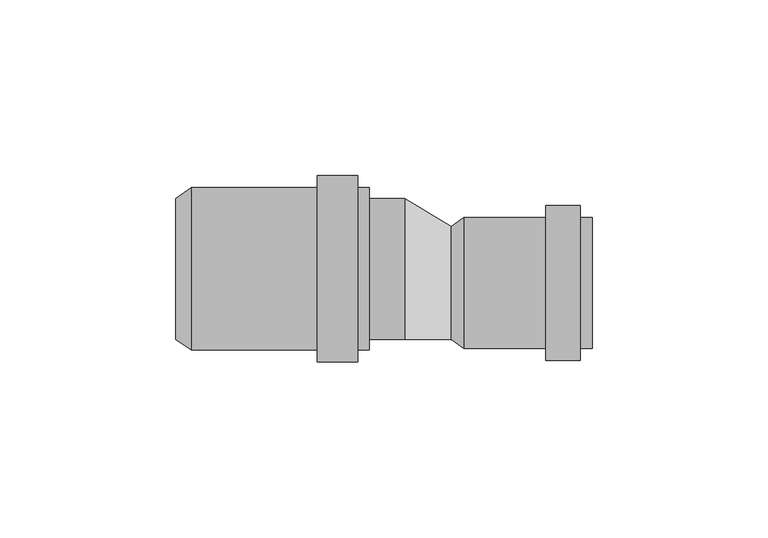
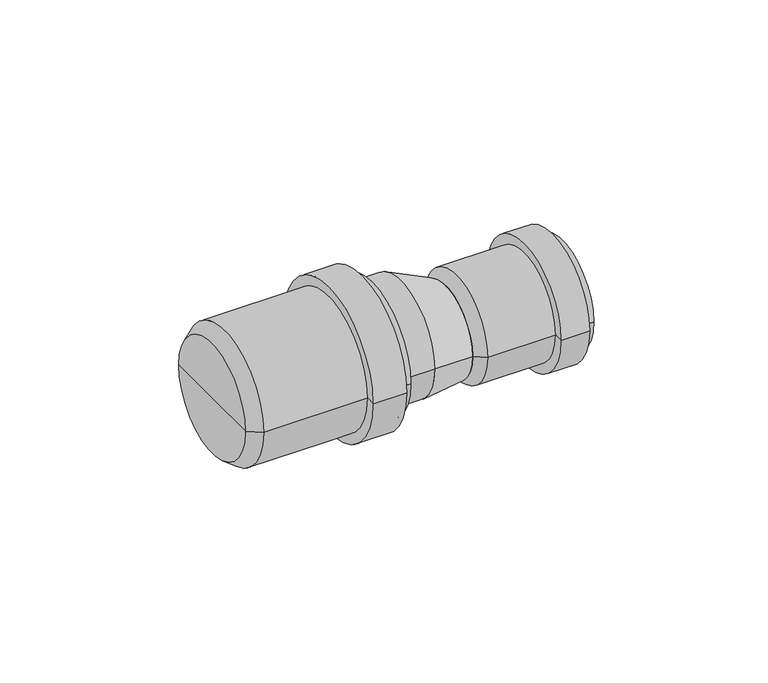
"""IFC4 building model written with IfcOpenShell, lengths in millimetres: pipe fitting geometry, pf_HTR_red-nes-dlouha : pf_HTR_red-nes-dlouha."""

from ifc_helpers import new_model, si_unit, point, frame, origin, origin_2d, place, context, project, spatial, polyline, circle_curve, trimmed, segment, composite_curve, outline, extrude, source, transform, mapped, element, save
from ifc_brep_helpers import plane_surface, cylinder_surface, revolved_surface, spline_surface, advanced_brep


def pipe_fitting_a80d6788(model_context):
    return source(origin(), model_context, "Body", "SolidModel", [
        advanced_brep(
        [(-65.0, -20.0, 0.0), (-65.0, 20.0, 0.0), (-60.6, 23.1, 0.0), (-60.6, -23.1, 0.0), (-65.0, 0.0, 0.0), (-10.0, -23.1, 0.0), (-10.0, 23.1, 0.0), (-10.0, 0.0, 0.0), (-13.4, -23.1, 0.0), (-13.4, 23.1, 0.0), (-13.4, -26.5, 0.0), (-13.4, 26.5, 0.0), (-24.8, -26.5, 0.0), (-24.8, 26.5, 0.0), (-24.8, -23.1, 0.0), (-24.8, 23.1, 0.0)],
        [
            (0, 1, circle_curve(frame((-65.0, 0.0, 0.0), z_axis=(1.0, 0.0, 0.0), x_axis=(0.0, 1.0, 0.0)), 20.0)),
            (1, 2),
            (2, 3, circle_curve(frame((-60.6, 0.0, 0.0), z_axis=(-1.0, 0.0, 0.0), x_axis=(0.0, 1.0, 0.0)), 23.1)),
            (3, 0),
            (1, 0, circle_curve(frame((-65.0, 0.0, 0.0), z_axis=(1.0, 0.0, 0.0), x_axis=(0.0, 1.0, 0.0)), 20.0)),
            (3, 2, circle_curve(frame((-60.6, 0.0, 0.0), z_axis=(-1.0, 0.0, 0.0), x_axis=(0.0, 1.0, 0.0)), 23.1)),
            (4, 1),
            (0, 4),
            (5, 6, circle_curve(frame((-10.0, 0.0, 0.0), z_axis=(1.0, 0.0, 0.0), x_axis=(0.0, 1.0, 0.0)), 23.1)),
            (6, 7),
            (7, 5),
            (6, 5, circle_curve(frame((-10.0, 0.0, 0.0), z_axis=(1.0, 0.0, 0.0), x_axis=(0.0, 1.0, 0.0)), 23.1)),
            (8, 9, circle_curve(frame((-13.4, 0.0, 0.0), z_axis=(1.0, 0.0, 0.0), x_axis=(0.0, 1.0, 0.0)), 23.1)),
            (9, 6),
            (5, 8),
            (9, 8, circle_curve(frame((-13.4, 0.0, 0.0), z_axis=(1.0, 0.0, 0.0), x_axis=(0.0, 1.0, 0.0)), 23.1)),
            (10, 11, circle_curve(frame((-13.4, 0.0, 0.0), z_axis=(1.0, 0.0, 0.0), x_axis=(0.0, 1.0, 0.0)), 26.5)),
            (11, 9),
            (8, 10),
            (11, 10, circle_curve(frame((-13.4, 0.0, 0.0), z_axis=(1.0, 0.0, 0.0), x_axis=(0.0, 1.0, 0.0)), 26.5)),
            (12, 13, circle_curve(frame((-24.8, 0.0, 0.0), z_axis=(1.0, 0.0, 0.0), x_axis=(0.0, 1.0, 0.0)), 26.5)),
            (13, 11),
            (10, 12),
            (13, 12, circle_curve(frame((-24.8, 0.0, 0.0), z_axis=(1.0, 0.0, 0.0), x_axis=(0.0, 1.0, 0.0)), 26.5)),
            (14, 15, circle_curve(frame((-24.8, 0.0, 0.0), z_axis=(1.0, 0.0, 0.0), x_axis=(0.0, 1.0, 0.0)), 23.1)),
            (15, 13),
            (12, 14),
            (15, 14, circle_curve(frame((-24.8, 0.0, 0.0), z_axis=(1.0, 0.0, 0.0), x_axis=(0.0, 1.0, 0.0)), 23.1)),
            (2, 15),
            (14, 3),
        ],
        [
            revolved_surface(polyline([(-60.6, 23.1, 0.0), (-65.0, 20.0, 0.0)]), (-65.0, 0.0, 0.0), (-1.0, 0.0, 0.0)),
            plane_surface(frame((-65.0, 0.0, 0.0), z_axis=(-1.0, 0.0, 0.0), x_axis=(0.0, 1.0, 0.0))),
            plane_surface(frame((-10.0, 0.0, 0.0), z_axis=(1.0, 0.0, 0.0), x_axis=(0.0, 1.0, 0.0))),
            cylinder_surface(frame((-65.0, 0.0, 0.0), z_axis=(-1.0, 0.0, 0.0), x_axis=(0.0, 1.0, 0.0)), 23.1),
            plane_surface(frame((-13.4, 0.0, 0.0), z_axis=(1.0, 0.0, 0.0), x_axis=(0.0, 1.0, 0.0))),
            cylinder_surface(frame((-65.0, 0.0, 0.0), z_axis=(-1.0, 0.0, 0.0), x_axis=(0.0, 1.0, 0.0)), 26.5),
            plane_surface(frame((-24.8, 0.0, 0.0), z_axis=(-1.0, 0.0, 0.0), x_axis=(0.0, 1.0, 0.0))),
        ],
        [
            (0, [[1, 2, 3, 4]]),
            (0, [[5, -4, 6, -2]]),
            (1, [[7, -1, 8]]),
            (1, [[-8, -5, -7]]),
            (2, [[9, 10, 11]]),
            (2, [[12, -11, -10]]),
            (3, [[13, 14, -9, 15]]),
            (3, [[16, -15, -12, -14]]),
            (4, [[17, 18, -13, 19]]),
            (4, [[20, -19, -16, -18]]),
            (5, [[21, 22, -17, 23]]),
            (5, [[24, -23, -20, -22]]),
            (6, [[25, 26, -21, 27]]),
            (6, [[28, -27, -24, -26]]),
            (3, [[-3, 29, -25, 30]]),
            (3, [[-6, -30, -28, -29]]),
        ],
    ),
        advanced_brep(
        [(13.25, -20.0, 0.0), (13.25, 12.0, 0.0), (16.75, 14.6, 0.0), (16.75, -22.6, 0.0), (13.25, -4.0, 0.0), (53.25, -22.6, 0.0), (53.25, 14.6, 0.0), (53.25, -4.0, 0.0), (49.85, -22.6, 0.0), (49.85, 14.6, 0.0), (49.85, -26.0, 0.0), (49.85, 18.0, 0.0), (40.15, -26.0, 0.0), (40.15, 18.0, 0.0), (40.15, -22.6, 0.0), (40.15, 14.6, 0.0)],
        [
            (0, 1, circle_curve(frame((13.25, -4.0, 0.0), z_axis=(1.0, 0.0, 0.0), x_axis=(0.0, 1.0, 0.0)), 16.0)),
            (1, 2),
            (2, 3, circle_curve(frame((16.75, -4.0, 0.0), z_axis=(-1.0, 0.0, 0.0), x_axis=(0.0, 1.0, 0.0)), 18.6)),
            (3, 0),
            (1, 0, circle_curve(frame((13.25, -4.0, 0.0), z_axis=(1.0, 0.0, 0.0), x_axis=(0.0, 1.0, 0.0)), 16.0)),
            (3, 2, circle_curve(frame((16.75, -4.0, 0.0), z_axis=(-1.0, 0.0, 0.0), x_axis=(0.0, 1.0, 0.0)), 18.6)),
            (4, 1),
            (0, 4),
            (5, 6, circle_curve(frame((53.25, -4.0, 0.0), z_axis=(1.0, 0.0, 0.0), x_axis=(0.0, 1.0, 0.0)), 18.6)),
            (6, 7),
            (7, 5),
            (6, 5, circle_curve(frame((53.25, -4.0, 0.0), z_axis=(1.0, 0.0, 0.0), x_axis=(0.0, 1.0, 0.0)), 18.6)),
            (8, 9, circle_curve(frame((49.85, -4.0, 0.0), z_axis=(1.0, 0.0, 0.0), x_axis=(0.0, 1.0, 0.0)), 18.6)),
            (9, 6),
            (5, 8),
            (9, 8, circle_curve(frame((49.85, -4.0, 0.0), z_axis=(1.0, 0.0, 0.0), x_axis=(0.0, 1.0, 0.0)), 18.6)),
            (10, 11, circle_curve(frame((49.85, -4.0, 0.0), z_axis=(1.0, 0.0, 0.0), x_axis=(0.0, 1.0, 0.0)), 22.0)),
            (11, 9),
            (8, 10),
            (11, 10, circle_curve(frame((49.85, -4.0, 0.0), z_axis=(1.0, 0.0, 0.0), x_axis=(0.0, 1.0, 0.0)), 22.0)),
            (12, 13, circle_curve(frame((40.15, -4.0, 0.0), z_axis=(1.0, 0.0, 0.0), x_axis=(0.0, 1.0, 0.0)), 22.0)),
            (13, 11),
            (10, 12),
            (13, 12, circle_curve(frame((40.15, -4.0, 0.0), z_axis=(1.0, 0.0, 0.0), x_axis=(0.0, 1.0, 0.0)), 22.0)),
            (14, 15, circle_curve(frame((40.15, -4.0, 0.0), z_axis=(1.0, 0.0, 0.0), x_axis=(0.0, 1.0, 0.0)), 18.6)),
            (15, 13),
            (12, 14),
            (15, 14, circle_curve(frame((40.15, -4.0, 0.0), z_axis=(1.0, 0.0, 0.0), x_axis=(0.0, 1.0, 0.0)), 18.6)),
            (2, 15),
            (14, 3),
        ],
        [
            revolved_surface(polyline([(16.75, 14.6, 0.0), (13.25, 12.0, 0.0)]), (13.25, -4.0, 0.0), (-1.0, 0.0, 0.0)),
            plane_surface(frame((13.25, -4.0, 0.0), z_axis=(-1.0, 0.0, 0.0), x_axis=(0.0, 1.0, 0.0))),
            plane_surface(frame((53.25, -4.0, 0.0), z_axis=(1.0, 0.0, 0.0), x_axis=(0.0, 1.0, 0.0))),
            cylinder_surface(frame((13.25, -4.0, 0.0), z_axis=(-1.0, 0.0, 0.0), x_axis=(0.0, 1.0, 0.0)), 18.6),
            plane_surface(frame((49.85, -4.0, 0.0), z_axis=(1.0, 0.0, 0.0), x_axis=(0.0, 1.0, 0.0))),
            cylinder_surface(frame((13.25, -4.0, 0.0), z_axis=(-1.0, 0.0, 0.0), x_axis=(0.0, 1.0, 0.0)), 22.0),
            plane_surface(frame((40.15, -4.0, 0.0), z_axis=(-1.0, 0.0, 0.0), x_axis=(0.0, 1.0, 0.0))),
        ],
        [
            (0, [[1, 2, 3, 4]]),
            (0, [[5, -4, 6, -2]]),
            (1, [[7, -1, 8]]),
            (1, [[-8, -5, -7]]),
            (2, [[9, 10, 11]]),
            (2, [[12, -11, -10]]),
            (3, [[13, 14, -9, 15]]),
            (3, [[16, -15, -12, -14]]),
            (4, [[17, 18, -13, 19]]),
            (4, [[20, -19, -16, -18]]),
            (5, [[21, 22, -17, 23]]),
            (5, [[24, -23, -20, -22]]),
            (6, [[25, 26, -21, 27]]),
            (6, [[28, -27, -24, -26]]),
            (3, [[-3, 29, -25, 30]]),
            (3, [[-6, -30, -28, -29]]),
        ],
    ),
        extrude(outline(composite_curve([segment(trimmed(circle_curve(origin_2d(), 20.0), [point((-20.0, 0.0))], [point((20.0, 0.0))], False, "CARTESIAN"), True, "CONTINUOUS"), segment(trimmed(circle_curve(origin_2d(), 20.0), [point((20.0, 0.0))], [point((-20.0, 0.0))], False, "CARTESIAN"), True, "CONTINUOUS")], self_intersect=False)), frame((-10.0, 0.0, 0.0), z_axis=(1.0, 0.0, 0.0), x_axis=(0.0, 1.0, 0.0)), (0.0, 0.0, 1.0), 10.0),
        advanced_brep(
        [(13.25, -20.0, 0.0), (13.25, 12.0, 0.0), (0.0, -20.0, 0.0), (0.0, 20.0, 0.0)],
        [
            (0, 1, circle_curve(frame((13.25, -4.0, 0.0), z_axis=(1.0, 0.0, 0.0), x_axis=(0.0, 1.0, 0.0)), 16.0)),
            (1, 0, circle_curve(frame((13.25, -4.0, 0.0), z_axis=(1.0, 0.0, 0.0), x_axis=(0.0, 1.0, 0.0)), 16.0)),
            (2, 3, circle_curve(frame((0.0, 0.0, 0.0), z_axis=(-1.0, 0.0, 0.0), x_axis=(0.0, 1.0, 0.0)), 20.0)),
            (3, 2, circle_curve(frame((0.0, 0.0, 0.0), z_axis=(-1.0, 0.0, 0.0), x_axis=(0.0, 1.0, 0.0)), 20.0)),
            (3, 1),
            (0, 2),
        ],
        [
            plane_surface(frame((13.25, -4.0, 0.0), z_axis=(1.0, 0.0, 0.0), x_axis=(0.0, 0.0, -1.0))),
            plane_surface(frame((0.0, 0.0, 0.0), z_axis=(-1.0, 0.0, 0.0), x_axis=(0.0, 0.0, -1.0))),
            spline_surface(2, 1, [[(0.0, -20.0, 0.0), (13.25, -20.0, 0.0)], [(0.0, -20.0, -20.0), (13.25, -20.0, -16.0)], [(0.0, 0.0, -20.0), (13.25, -4.0, -16.0)], [(0.0, 20.0, -20.0), (13.25, 12.0, -16.0)], [(0.0, 20.0, 0.0), (13.25, 12.0, 0.0)]], [3, 2, 3], [2, 2], [0.0, 1.0, 2.0], [0.0, 1.0], weights=[[1.0, 1.0], [0.7071067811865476, 0.7071067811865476], [1.0, 1.0], [0.7071067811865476, 0.7071067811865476], [1.0, 1.0]]),
            spline_surface(2, 1, [[(0.0, 20.0, 0.0), (13.25, 12.0, 0.0)], [(0.0, 20.0, 20.0), (13.25, 12.0, 16.0)], [(0.0, 0.0, 20.0), (13.25, -4.0, 16.0)], [(0.0, -20.0, 20.0), (13.25, -20.0, 16.0)], [(0.0, -20.0, 0.0), (13.25, -20.0, 0.0)]], [3, 2, 3], [2, 2], [0.0, 1.0, 2.0], [0.0, 1.0], weights=[[1.0, 1.0], [0.7071067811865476, 0.7071067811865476], [1.0, 1.0], [0.7071067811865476, 0.7071067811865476], [1.0, 1.0]]),
        ],
        [
            (0, [[1, 2]]),
            (1, [[3, 4]]),
            (2, [[-4, 5, -1, 6]]),
            (3, [[-3, -6, -2, -5]]),
        ],
    ),
    ])


if __name__ == "__main__":
    model = new_model("IFC4")
    model_context = context("Model", 3, world=origin())
    ifc_project = project(units=[si_unit("LENGTHUNIT", "METRE", prefix="MILLI")], contexts=[model_context])
    site = spatial("IfcSite", under=ifc_project)
    building = spatial("IfcBuilding", under=site)
    placement = place(None, origin())
    pipe_fitting_shape = pipe_fitting_a80d6788(model_context)
    element("IfcPipeFitting", 1, ObjectType="pf_HTR_red-nes-dlouha : pf_HTR_red-nes-dlouha", at=placement, inside=building, context=model_context, shape_type="MappedRepresentation", body=[
        mapped(pipe_fitting_shape, transform((0.0, 0.0, 0.0), x_axis=(1.0, 0.0, 0.0), y_axis=(0.0, 1.0, 0.0), z_axis=(0.0, 0.0, 1.0))),
    ])
    save(model, "model.ifc")
